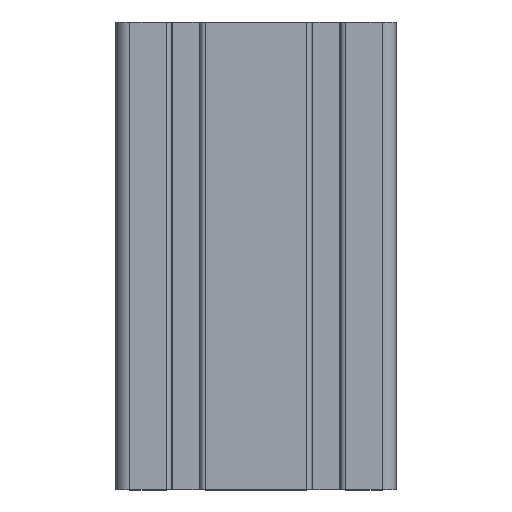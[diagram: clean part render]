
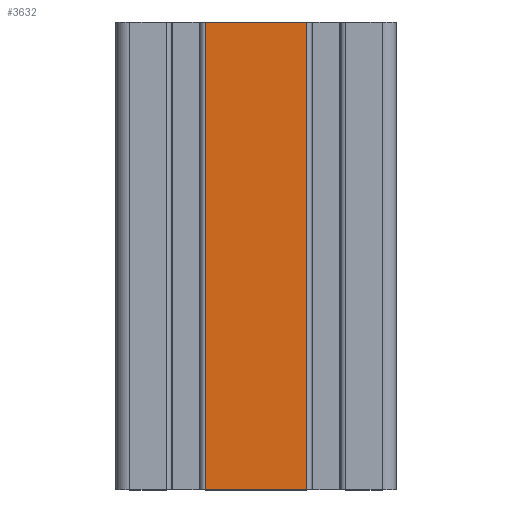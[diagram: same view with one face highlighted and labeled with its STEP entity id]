
A CAD part, top view. The second image highlights one B-rep face of the part: STEP entity #3632.
In plain terms, the highlighted planar face has unit normal (0, 0, 1).
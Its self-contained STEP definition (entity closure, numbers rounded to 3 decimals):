
#553 = ORIENTED_EDGE ( 'NONE', *, *, #7052, .T. ) ;
#891 = VERTEX_POINT ( 'NONE', #7076 ) ;
#1044 = CARTESIAN_POINT ( 'NONE',  ( -10.9, 50., 15. ) ) ;
#1173 = VECTOR ( 'NONE', #5939, 1000. ) ;
#1578 = LINE ( 'NONE', #1044, #1173 ) ;
#1933 = LINE ( 'NONE', #2513, #4048 ) ;
#2131 = LINE ( 'NONE', #5269, #4580 ) ;
#2289 = ORIENTED_EDGE ( 'NONE', *, *, #4299, .T. ) ;
#2513 = CARTESIAN_POINT ( 'NONE',  ( 10.9, 50., 15. ) ) ;
#2603 = VERTEX_POINT ( 'NONE', #7356 ) ;
#3038 = ORIENTED_EDGE ( 'NONE', *, *, #5310, .F. ) ;
#3197 = AXIS2_PLACEMENT_3D ( 'NONE', #5684, #3786, #6923 ) ;
#3527 = ORIENTED_EDGE ( 'NONE', *, *, #4906, .F. ) ;
#3632 = ADVANCED_FACE ( 'NONE', ( #5562 ), #3667, .F. ) ;
#3667 = PLANE ( 'NONE',  #3197 ) ;
#3786 = DIRECTION ( 'NONE',  ( 0., 0., -1. ) ) ;
#4048 = VECTOR ( 'NONE', #5028, 1000. ) ;
#4299 = EDGE_CURVE ( 'NONE', #891, #2603, #8012, .T. ) ;
#4580 = VECTOR ( 'NONE', #5845, 1000. ) ;
#4906 = EDGE_CURVE ( 'NONE', #5206, #2603, #1933, .T. ) ;
#5028 = DIRECTION ( 'NONE',  ( 0., -1., 0. ) ) ;
#5206 = VERTEX_POINT ( 'NONE', #7454 ) ;
#5269 = CARTESIAN_POINT ( 'NONE',  ( -10.9, 50., 15. ) ) ;
#5306 = EDGE_LOOP ( 'NONE', ( #2289, #3527, #3038, #553 ) ) ;
#5310 = EDGE_CURVE ( 'NONE', #5470, #5206, #2131, .T. ) ;
#5470 = VERTEX_POINT ( 'NONE', #6084 ) ;
#5562 = FACE_OUTER_BOUND ( 'NONE', #5306, .T. ) ;
#5575 = CARTESIAN_POINT ( 'NONE',  ( -10.9, -50., 15. ) ) ;
#5684 = CARTESIAN_POINT ( 'NONE',  ( -10.9, 50., 15. ) ) ;
#5845 = DIRECTION ( 'NONE',  ( 1., 0., 0. ) ) ;
#5939 = DIRECTION ( 'NONE',  ( 0., -1., 0. ) ) ;
#6084 = CARTESIAN_POINT ( 'NONE',  ( -10.9, 50., 15. ) ) ;
#6923 = DIRECTION ( 'NONE',  ( -1., 0., 0. ) ) ;
#7052 = EDGE_CURVE ( 'NONE', #5470, #891, #1578, .T. ) ;
#7076 = CARTESIAN_POINT ( 'NONE',  ( -10.9, -50., 15. ) ) ;
#7356 = CARTESIAN_POINT ( 'NONE',  ( 10.9, -50., 15. ) ) ;
#7454 = CARTESIAN_POINT ( 'NONE',  ( 10.9, 50., 15. ) ) ;
#7659 = VECTOR ( 'NONE', #7931, 1000. ) ;
#7931 = DIRECTION ( 'NONE',  ( 1., 0., 0. ) ) ;
#8012 = LINE ( 'NONE', #5575, #7659 ) ;
